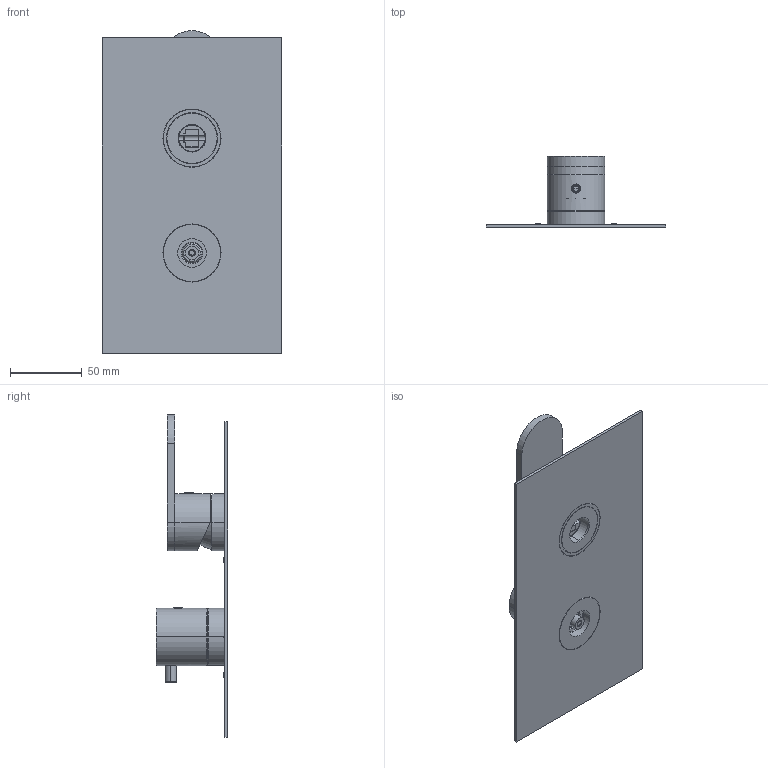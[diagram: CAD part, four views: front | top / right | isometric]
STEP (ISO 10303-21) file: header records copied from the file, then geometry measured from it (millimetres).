
FILE_DESCRIPTION((''),'2;1');
FILE_NAME('79523V221_SW0001','2026-10-07T16:32:53',('carloff'),(''),'CREO PARAMETRIC BY PTC INC, 2025443','CREO PARAMETRIC BY PTC INC, 2025443','');
FILE_SCHEMA(('CONFIG_CONTROL_DESIGN'));
Products named in the file (1): 79523V221_SW0001
Bounding box: 125 x 49.6 x 225 mm (x, y, z)
Volume: 152203.8 mm3; surface area: 95307 mm2
Topology: 6 solids, 6 shells, 692 faces, 1875 edges, 1217 vertices
Faces by surface type: cylinder 285, plane 234, cone 66, torus 60, bspline 43, sphere 4
Entity records: 44074 total; most frequent: CARTESIAN_POINT 26933, ORIENTED_EDGE 3734, DIRECTION 3381, EDGE_CURVE 1867, AXIS2_PLACEMENT_3D 1236, VERTEX_POINT 1217, VECTOR 909, LINE 909
